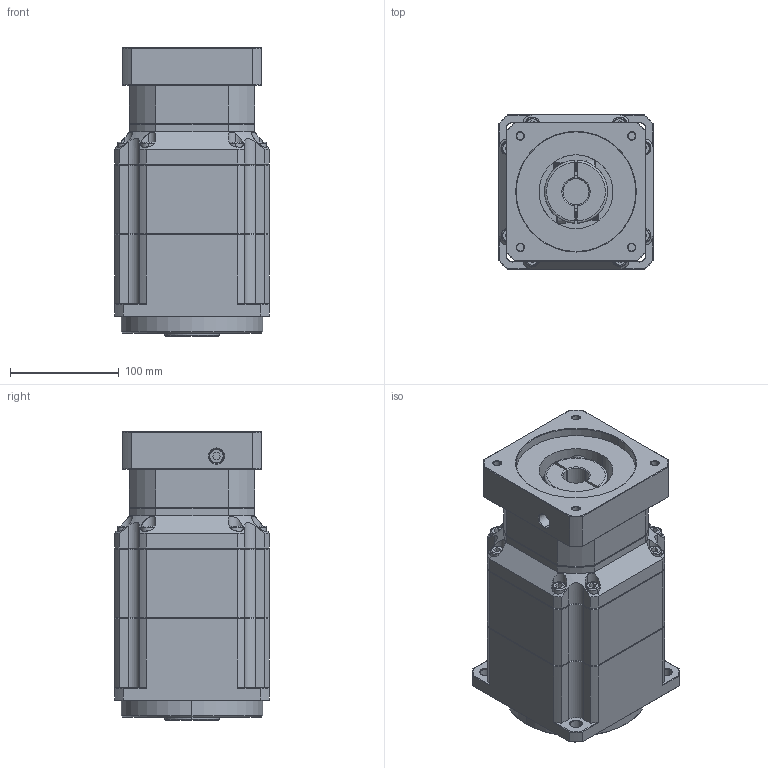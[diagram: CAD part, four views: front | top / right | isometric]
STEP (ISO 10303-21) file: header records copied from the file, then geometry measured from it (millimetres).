
FILE_DESCRIPTION (( 'STEP AP214' ), '1' );
FILE_NAME ('ZPB142-K35-L3-P1-24-110-145-M8.step', '2024-07-05T00:14:05', ( 'Windows 蚚誧' ), ( 'Organization' ), 'SwSTEP 2.0', 'SolidWorks 2016', '' );
FILE_SCHEMA (( 'AUTOMOTIVE_DESIGN' ));
Length unit declared in the file: millimetre
Products named in the file (1): ZPB142-K35-L3-P1-24-110-145-M8
Bounding box: 142 x 142 x 265.5 mm (x, y, z)
Surface area: 220061.7 mm2 (no closed solid volume)
Topology: 0 solids, 2 shells, 1822 faces, 4859 edges, 3136 vertices
Faces by surface type: plane 1050, bspline 390, cylinder 199, cone 183
Entity records: 90535 total; most frequent: CARTESIAN_POINT 40139, ORIENTED_EDGE 9704, DIRECTION 7230, EDGE_CURVE 4859, LINE 3234, VECTOR 3234, VERTEX_POINT 3136, AXIS2_PLACEMENT_3D 1998
